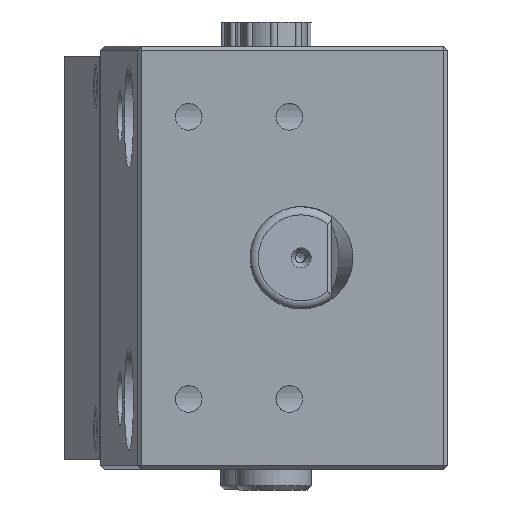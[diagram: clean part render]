
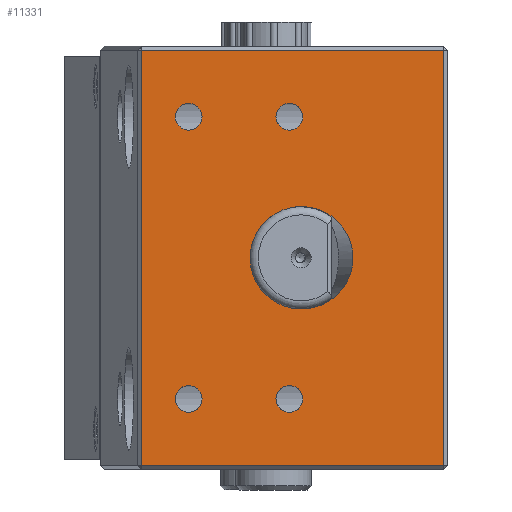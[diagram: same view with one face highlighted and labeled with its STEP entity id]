
A CAD part, left-side view. The second image highlights one B-rep face of the part: STEP entity #11331.
In plain terms, the highlighted planar face has unit normal (-1, 0, 0).
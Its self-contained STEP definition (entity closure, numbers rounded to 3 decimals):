
#488=CARTESIAN_POINT('',(0.,39.635,51.5));
#489=VERTEX_POINT('',#488);
#10532=CARTESIAN_POINT('',(0.,39.635,-51.5));
#10533=VERTEX_POINT('',#10532);
#10615=CARTESIAN_POINT('',(0.,39.635,-51.5));
#10616=DIRECTION('',(0.0,0.0,1.0));
#10617=VECTOR('',#10616,103.0);
#10618=LINE('',#10615,#10617);
#10619=EDGE_CURVE('',#10533,#489,#10618,.T.);
#10645=CARTESIAN_POINT('',(0.,-35.3,-51.5));
#10646=VERTEX_POINT('',#10645);
#10667=CARTESIAN_POINT('',(0.,-35.3,51.5));
#10668=VERTEX_POINT('',#10667);
#11179=CARTESIAN_POINT('',(0.,39.635,51.5));
#11180=DIRECTION('',(0.0,-1.0,0.0));
#11181=VECTOR('',#11180,74.935);
#11182=LINE('',#11179,#11181);
#11183=EDGE_CURVE('',#489,#10668,#11182,.T.);
#11214=CARTESIAN_POINT('',(0.,-35.3,51.5));
#11215=DIRECTION('',(0.0,0.0,-1.0));
#11216=VECTOR('',#11215,103.0);
#11217=LINE('',#11214,#11216);
#11218=EDGE_CURVE('',#10668,#10646,#11217,.T.);
#11236=CARTESIAN_POINT('',(0.,-35.3,-51.5));
#11237=DIRECTION('',(0.0,1.0,0.0));
#11238=VECTOR('',#11237,74.935);
#11239=LINE('',#11236,#11238);
#11240=EDGE_CURVE('',#10646,#10533,#11239,.T.);
#11265=CARTESIAN_POINT('',(0.,-36.3,0.0));
#11266=DIRECTION('',(-1.0,0.0,0.0));
#11267=DIRECTION('',(0.0,0.0,1.0));
#11268=AXIS2_PLACEMENT_3D('',#11265,#11266,#11267);
#11269=PLANE('',#11268);
#11270=ORIENTED_EDGE('',*,*,#10619,.F.);
#11271=ORIENTED_EDGE('',*,*,#11240,.F.);
#11272=ORIENTED_EDGE('',*,*,#11218,.F.);
#11273=ORIENTED_EDGE('',*,*,#11183,.F.);
#11274=EDGE_LOOP('',(#11270,#11271,#11272,#11273));
#11275=FACE_OUTER_BOUND('',#11274,.T.);
#11276=CARTESIAN_POINT('',(0.,12.764,0.));
#11277=VERTEX_POINT('',#11276);
#11278=CARTESIAN_POINT('',(0.0,0.,0.0));
#11279=DIRECTION('',(1.0,0.0,0.0));
#11280=DIRECTION('',(0.0,-1.0,0.0));
#11281=AXIS2_PLACEMENT_3D('',#11278,#11279,#11280);
#11282=ELLIPSE('',#11281,12.764,12.715);
#11283=EDGE_CURVE('',#11277,#11277,#11282,.T.);
#11284=ORIENTED_EDGE('',*,*,#11283,.T.);
#11285=EDGE_LOOP('',(#11284));
#11286=FACE_BOUND('',#11285,.T.);
#11287=CARTESIAN_POINT('',(0.,3.,-31.677));
#11288=VERTEX_POINT('',#11287);
#11289=CARTESIAN_POINT('',(0.0,3.,-35.0));
#11290=DIRECTION('',(1.0,0.0,0.0));
#11291=DIRECTION('',(0.0,0.0,1.0));
#11292=AXIS2_PLACEMENT_3D('',#11289,#11290,#11291);
#11293=CIRCLE('',#11292,3.324);
#11294=EDGE_CURVE('',#11288,#11288,#11293,.T.);
#11295=ORIENTED_EDGE('',*,*,#11294,.T.);
#11296=EDGE_LOOP('',(#11295));
#11297=FACE_BOUND('',#11296,.T.);
#11298=CARTESIAN_POINT('',(0.,28.,-31.677));
#11299=VERTEX_POINT('',#11298);
#11300=CARTESIAN_POINT('',(0.,28.,-35.0));
#11301=DIRECTION('',(1.0,0.0,0.0));
#11302=DIRECTION('',(0.0,0.0,1.0));
#11303=AXIS2_PLACEMENT_3D('',#11300,#11301,#11302);
#11304=CIRCLE('',#11303,3.324);
#11305=EDGE_CURVE('',#11299,#11299,#11304,.T.);
#11306=ORIENTED_EDGE('',*,*,#11305,.T.);
#11307=EDGE_LOOP('',(#11306));
#11308=FACE_BOUND('',#11307,.T.);
#11309=CARTESIAN_POINT('',(0.,3.,38.323));
#11310=VERTEX_POINT('',#11309);
#11311=CARTESIAN_POINT('',(0.0,3.,35.0));
#11312=DIRECTION('',(1.0,0.0,0.0));
#11313=DIRECTION('',(0.0,0.0,1.0));
#11314=AXIS2_PLACEMENT_3D('',#11311,#11312,#11313);
#11315=CIRCLE('',#11314,3.324);
#11316=EDGE_CURVE('',#11310,#11310,#11315,.T.);
#11317=ORIENTED_EDGE('',*,*,#11316,.T.);
#11318=EDGE_LOOP('',(#11317));
#11319=FACE_BOUND('',#11318,.T.);
#11320=CARTESIAN_POINT('',(0.,28.,38.323));
#11321=VERTEX_POINT('',#11320);
#11322=CARTESIAN_POINT('',(0.,28.,35.0));
#11323=DIRECTION('',(1.0,0.0,0.0));
#11324=DIRECTION('',(0.0,0.0,1.0));
#11325=AXIS2_PLACEMENT_3D('',#11322,#11323,#11324);
#11326=CIRCLE('',#11325,3.324);
#11327=EDGE_CURVE('',#11321,#11321,#11326,.T.);
#11328=ORIENTED_EDGE('',*,*,#11327,.T.);
#11329=EDGE_LOOP('',(#11328));
#11330=FACE_BOUND('',#11329,.T.);
#11331=ADVANCED_FACE('',(#11275,#11286,#11297,#11308,#11319,#11330),#11269,.T.);
